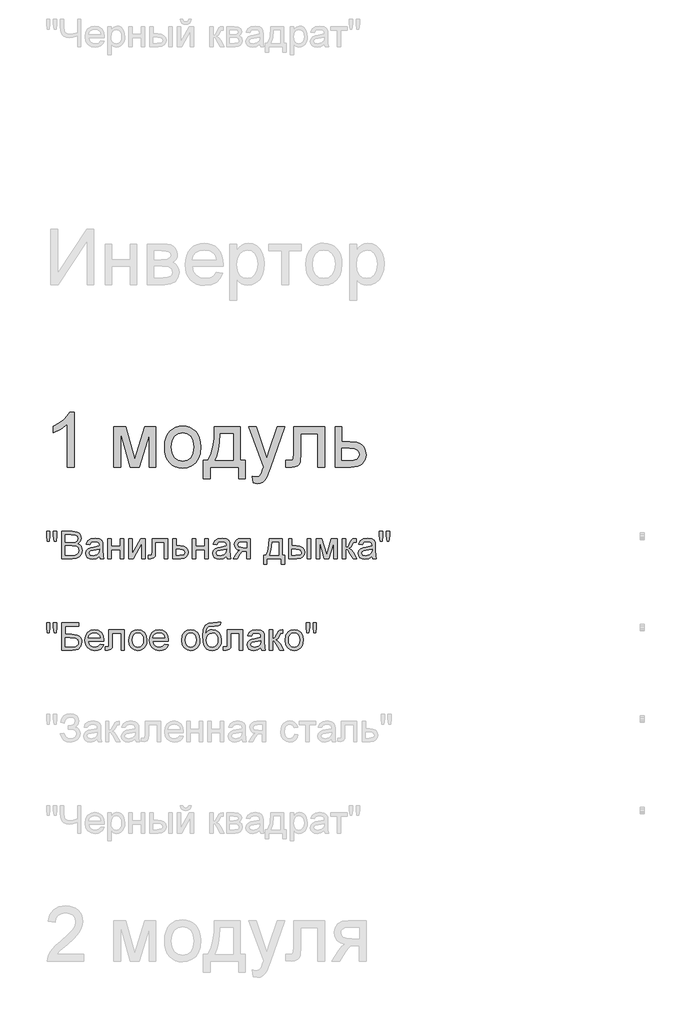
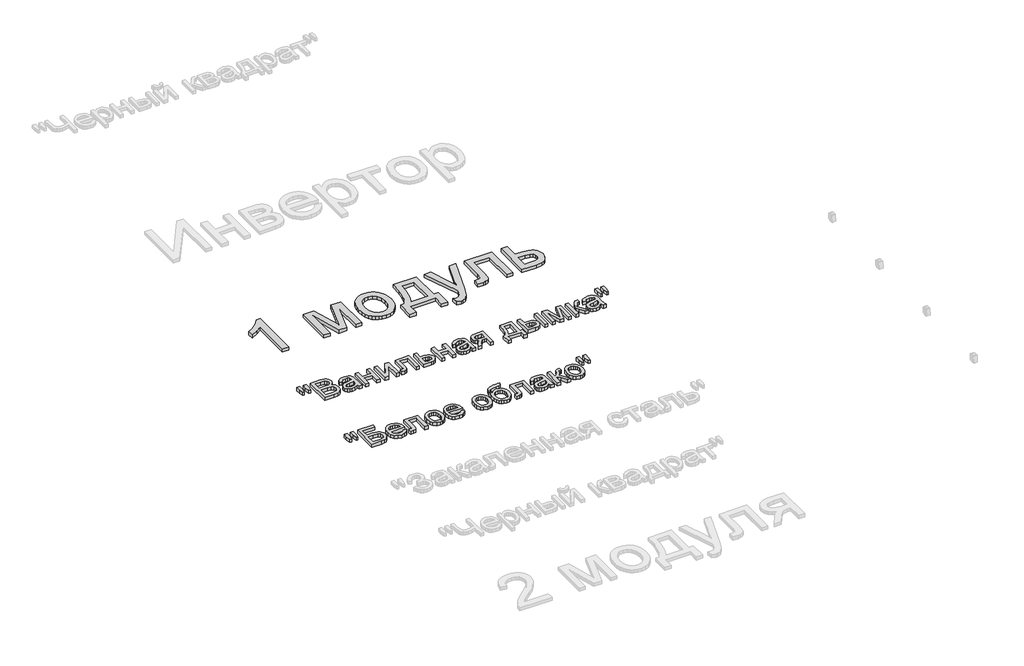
# One storey, part 26 of 168: 3 proxies.
"""IFC4 building model written with IfcOpenShell, lengths in millimetres."""

from ifc_helpers import new_model, si_unit, origin, origin_with_axes, place, context, project, spatial, polyline, outline, extrude, element, save

model = new_model("IFC4")

# Units and contexts
model_context = context("Model", 3, world=origin())
ifc_project = project(units=[si_unit("LENGTHUNIT", "METRE", prefix="MILLI")], contexts=[model_context])

# Site, building, storey
site = spatial("IfcSite", under=ifc_project)
building = spatial("IfcBuilding", under=site)
storey = spatial("IfcBuildingStorey", under=building, Name="Этаж 01", Elevation=0.0)

# Proxies
placement = place(None, origin())
element("IfcBuildingElementProxy", 1, Name="300 мм Arial 2", ObjectType="300 мм Arial 2", at=placement, inside=storey, context=model_context, shape_type="SweptSolid", body=[
    extrude(outline(polyline([(49226.2345192, -48566.8622977), (49188.5634029, -48566.8622977), (49188.5634029, -48332.006432), (49152.8788494, -48357.4270779), (49113.2211703, -48376.446577), (49113.2211703, -48340.8355999), (49142.8080797, -48324.7407626), (49168.4402577, -48305.5925048), (49188.6461763, -48285.2302363), (49201.9543075, -48265.4933673), (49226.2345192, -48265.4933673), (49226.2345192, -48566.8622977)])), origin_with_axes(), (0.0, 0.0, 1.0), 20.0),
    extrude(outline(polyline([(49442.843438, -48345.5444894), (49507.6642455, -48345.5444894), (49557.6226204, -48522.7164583), (49611.4805445, -48345.5444894), (49673.5790253, -48345.5444894), (49673.5790253, -48566.8622977), (49635.907909, -48566.8622977), (49635.907909, -48388.6602593), (49581.7556793, -48566.8622977), (49532.3123392, -48566.8622977), (49480.5145543, -48380.125397), (49480.5145543, -48566.8622977), (49442.843438, -48566.8622977), (49442.843438, -48345.5444894)])), origin_with_axes(), (0.0, 0.0, 1.0), 20.0),
    extrude(outline(polyline([(49720.6679207, -48456.2033936), (49722.7050673, -48427.5407876), (49728.8165069, -48402.8421102), (49739.0022396, -48382.1073612), (49753.2622655, -48365.3365408), (49767.6188603, -48354.6173791), (49783.4653773, -48346.9608351), (49800.8018163, -48342.3669087), (49819.6281774, -48340.8355999), (49840.4112109, -48342.7003018), (49859.203083, -48348.2944073), (49876.0037939, -48357.6179167), (49890.8133435, -48370.6708297), (49902.9005663, -48387.0116881), (49911.5342969, -48406.1990334), (49916.7145352, -48428.2328656), (49918.4412813, -48453.1131848), (49915.3878608, -48491.1705772), (49906.2275991, -48520.1412843), (49891.2272107, -48541.837125), (49870.6534101, -48558.069918), (49846.2168486, -48568.19587), (49819.6281774, -48571.5711873), (49798.5416413, -48569.7133832), (49779.5750252, -48564.139971), (49762.7283291, -48554.8509506), (49748.001553, -48541.8463221), (49736.0430888, -48525.3468146), (49727.5013288, -48505.5731573), (49722.3762727, -48482.5253503), (49720.6679207, -48456.2033936)]), holes=[polyline([(49758.339037, -48456.1298172), (49762.6984387, -48490.2232811), (49775.7766436, -48514.5126898), (49795.4583303, -48529.0532257), (49819.6281774, -48533.900071), (49843.6876599, -48529.0256345), (49863.3325584, -48514.4023252), (49876.4107634, -48489.7910197), (49880.770165, -48454.9525948), (49876.3831722, -48421.8524123), (49863.2221938, -48397.8940973), (49843.5497041, -48383.3535615), (49819.6281774, -48378.5067162), (49795.4583303, -48383.3351674), (49775.7766436, -48397.820521), (49762.6984387, -48422.0547474), (49758.339037, -48456.1298172)])]), origin_with_axes(), (0.0, 0.0, 1.0), 20.0),
    extrude(outline(polyline([(49993.7835139, -48345.5444894), (50135.0502001, -48345.5444894), (50135.0502001, -48529.1911814), (50163.3035373, -48529.1911814), (50163.3035373, -48628.0778617), (50125.632421, -48628.0778617), (50125.632421, -48566.8622977), (49970.2390662, -48566.8622977), (49970.2390662, -48628.0778617), (49932.5679499, -48628.0778617), (49932.5679499, -48529.1911814), (49956.1123976, -48529.1911814), (49973.2281074, -48498.2615027), (49985.2118634, -48457.3438278), (49992.0636656, -48406.4381567), (49993.7835139, -48345.5444894)]), holes=[polyline([(50026.7457407, -48383.2156057), (50023.6555319, -48429.3388109), (50017.9165728, -48469.0424752), (50009.5288633, -48502.3265987), (49998.4924035, -48529.1911814), (50097.3790838, -48529.1911814), (50097.3790838, -48383.2156057), (50026.7457407, -48383.2156057)])]), origin_with_axes(), (0.0, 0.0, 1.0), 20.0),
    extrude(outline(polyline([(50205.6835431, -48651.6223094), (50200.9746536, -48615.3491447), (50220.1045174, -48618.6600827), (50237.9835823, -48614.5030161), (50248.9464658, -48602.9147333), (50259.2471616, -48575.1764308), (50262.1902176, -48566.0529573), (50182.1390955, -48345.5444894), (50221.8703509, -48345.5444894), (50264.3239332, -48468.4170758), (50279.1127894, -48517.5661104), (50293.9016456, -48474.1560349), (50337.5324502, -48345.5444894), (50376.9694001, -48345.5444894), (50299.9349103, -48572.1597985), (50279.9221298, -48621.308833), (50269.6766162, -48636.9990001), (50258.0699393, -48647.8699131), (50244.5870641, -48654.2158775), (50228.712956, -48656.331199), (50205.6835431, -48651.6223094)])), origin_with_axes(), (0.0, 0.0, 1.0), 20.0),
    extrude(outline(polyline([(50427.0013514, -48345.5444894), (50596.5213748, -48345.5444894), (50596.5213748, -48566.6415685), (50558.8502585, -48566.6415685), (50558.8502585, -48383.2156057), (50464.6724678, -48383.2156057), (50464.6724678, -48488.7977384), (50462.134082, -48537.5053145), (50457.3792072, -48548.5325773), (50448.1913544, -48558.069918), (50434.2486268, -48564.6642028), (50415.2291276, -48566.8622977), (50384.6213456, -48564.9493114), (50384.6213456, -48529.1911814), (50401.470341, -48529.1911814), (50418.5032774, -48526.8735249), (50425.3090943, -48519.515885), (50427.0013514, -48486.6640228), (50427.0013514, -48345.5444894)])), origin_with_axes(), (0.0, 0.0, 1.0), 20.0),
    extrude(outline(polyline([(50653.0280493, -48345.5444894), (50690.6991656, -48345.5444894), (50690.6991656, -48425.5956116), (50734.109241, -48425.5956116), (50771.7435691, -48430.3136982), (50786.8911103, -48436.2113064), (50799.5922362, -48444.4679579), (50809.6354146, -48454.7985442), (50816.8091135, -48466.9179567), (50822.5480727, -48496.5232603), (50817.6644392, -48523.4798135), (50803.0135387, -48546.2241178), (50791.7816416, -48555.2533215), (50777.620484, -48561.7027528), (50740.5103877, -48566.8622977), (50653.0280493, -48566.8622977), (50653.0280493, -48345.5444894)]), holes=[polyline([(50690.6991656, -48529.1911814), (50725.8686843, -48529.1911814), (50753.1563313, -48527.2138157), (50771.3021107, -48521.2817185), (50781.483245, -48511.1557666), (50784.8769564, -48496.5968367), (50782.3661617, -48484.2911839), (50774.8337779, -48473.420271), (50758.6929553, -48465.8051137), (50730.3568447, -48463.2667279), (50690.6991656, -48463.2667279), (50690.6991656, -48529.1911814)])]), origin_with_axes(), (0.0, 0.0, 1.0), 20.0),
])
element("IfcBuildingElementProxy", 2, Name="150", ObjectType="150", at=placement, inside=storey, context=model_context, shape_type="SweptSolid", body=[
    extrude(outline(polyline([(49080.1485789, -48970.3300622), (49075.550054, -48941.2305964), (49075.550054, -48916.1778325), (49094.3856121, -48916.1778325), (49094.3856121, -48941.2305964), (49090.2653338, -48970.3300622), (49080.1485789, -48970.3300622)])), origin_with_axes(), (0.0, 0.0, 1.0), 20.0),
    extrude(outline(polyline([(49117.7093306, -48970.3300622), (49113.2211703, -48941.2305964), (49113.2211703, -48916.1778325), (49132.0567284, -48916.1778325), (49132.0567284, -48941.2305964), (49127.6421445, -48970.3300622), (49117.7093306, -48970.3300622)])), origin_with_axes(), (0.0, 0.0, 1.0), 20.0),
    extrude(outline(polyline([(49157.9556209, -49066.8622977), (49157.9556209, -48916.1778325), (49215.4555767, -48916.1778325), (49243.6169435, -48920.6108106), (49253.0807078, -48926.2348066), (49260.2452096, -48934.2408385), (49266.2600803, -48953.517855), (49261.2017028, -48971.1210085), (49245.9162059, -48984.4567308), (49256.5893823, -48990.030143), (49264.4758526, -48998.509823), (49269.3456905, -49009.3347507), (49270.9689698, -49021.9439061), (49266.5359918, -49042.19581), (49255.5547142, -49056.6167842), (49239.1655713, -49064.2687297), (49215.0141183, -49066.8622977), (49157.9556209, -49066.8622977)]), holes=[polyline([(49176.791179, -48977.3933965), (49211.1881456, -48977.3933965), (49231.2745025, -48975.7747157), (49243.3594261, -48968.8033519), (49247.4245221, -48956.5344874), (49243.6353376, -48944.2472287), (49232.7828187, -48936.9815593), (49208.5761834, -48935.0133907), (49176.791179, -48935.0133907), (49176.791179, -48977.3933965)]), polyline([(49176.791179, -49048.0267396), (49215.4187885, -49048.0267396), (49229.3983043, -49047.2909756), (49241.2257105, -49043.1890913), (49249.061597, -49034.819776), (49252.1334117, -49022.1278471), (49248.5281681, -49007.4861437), (49236.8479148, -48998.7489463), (49213.5793786, -48996.2289547), (49176.791179, -48996.2289547), (49176.791179, -49048.0267396)])]), origin_with_axes(), (0.0, 0.0, 1.0), 20.0),
    extrude(outline(polyline([(49365.1467606, -49052.7356291), (49346.8814195, -49065.5011344), (49326.7030921, -49069.2167425), (49310.9623412, -49066.9818594), (49299.3510657, -49060.27721), (49292.1911624, -49050.0960758), (49289.804528, -49037.4317381), (49293.4097715, -49022.5325173), (49302.8827329, -49011.7167867), (49316.0713024, -49005.5363691), (49332.3684748, -49002.7036778), (49365.036396, -48996.2289547), (49365.1467606, -48992.0350999), (49363.8499765, -48983.6289963), (49359.9596244, -48978.1291605), (49351.2592153, -48974.0456704), (49339.1375035, -48972.684507), (49320.0812162, -48976.3081446), (49310.9945309, -48989.1656204), (49292.1589727, -48986.8111756), (49300.3075589, -48968.4170758), (49316.7150959, -48957.6381334), (49341.5655247, -48953.8489488), (49364.3926025, -48957.196675), (49377.2868664, -48965.6027786), (49383.0626137, -48978.3866779), (49383.9823187, -48994.8677913), (49383.9823187, -49018.3018744), (49384.9388119, -49051.0249778), (49388.6912083, -49066.8622977), (49369.8556501, -49066.8622977), (49365.1467606, -49052.7356291)]), holes=[polyline([(49365.1467606, -49015.0645128), (49334.7597078, -49020.8402601), (49318.5545059, -49023.8936807), (49311.2152601, -49028.8600876), (49308.6400861, -49036.1073629), (49314.2502865, -49046.2976942), (49330.7130058, -49050.3811843), (49349.7692932, -49045.8746299), (49362.0565518, -49034.9669288), (49365.036396, -49020.3988017), (49365.1467606, -49015.0645128)])]), origin_with_axes(), (0.0, 0.0, 1.0), 20.0),
    extrude(outline(polyline([(49409.8812112, -48956.2033936), (49428.7167693, -48956.2033936), (49428.7167693, -48998.5833994), (49478.1601095, -48998.5833994), (49478.1601095, -48956.2033936), (49496.9956676, -48956.2033936), (49496.9956676, -49066.8622977), (49478.1601095, -49066.8622977), (49478.1601095, -49017.4189576), (49428.7167693, -49017.4189576), (49428.7167693, -49066.8622977), (49409.8812112, -49066.8622977), (49409.8812112, -48956.2033936)])), origin_with_axes(), (0.0, 0.0, 1.0), 20.0),
    extrude(outline(polyline([(49525.2490049, -48956.2033936), (49544.084563, -48956.2033936), (49544.084563, -49040.5955233), (49590.364118, -48956.2033936), (49614.7179061, -48956.2033936), (49614.7179061, -49066.8622977), (49595.8823479, -49066.8622977), (49595.8823479, -48982.9852028), (49549.8970985, -49066.8622977), (49525.2490049, -49066.8622977), (49525.2490049, -48956.2033936)])), origin_with_axes(), (0.0, 0.0, 1.0), 20.0),
    extrude(outline(polyline([(49652.3890224, -48956.2033936), (49737.1490341, -48956.2033936), (49737.1490341, -49066.7519331), (49718.3134759, -49066.7519331), (49718.3134759, -48975.0389517), (49671.2245806, -48975.0389517), (49671.2245806, -49027.830018), (49669.9553877, -49052.1838061), (49662.9840239, -49062.4661079), (49646.5029105, -49066.8622977), (49631.1990195, -49065.9058045), (49631.1990195, -49048.0267396), (49639.6235172, -49048.0267396), (49648.1399854, -49046.8679113), (49651.5428938, -49043.1890913), (49652.3890224, -49026.7631603), (49652.3890224, -48956.2033936)])), origin_with_axes(), (0.0, 0.0, 1.0), 20.0),
    extrude(outline(polyline([(49765.4023713, -48956.2033936), (49784.2379295, -48956.2033936), (49784.2379295, -48996.2289547), (49805.9429672, -48996.2289547), (49824.7601312, -48998.587998), (49838.6844648, -49005.6651278), (49847.2929034, -49016.8901272), (49850.162383, -49031.692779), (49847.7205663, -49045.1710556), (49840.395116, -49056.5432078), (49827.6985887, -49064.2825252), (49809.1435405, -49066.8622977), (49765.4023713, -49066.8622977), (49765.4023713, -48956.2033936)]), holes=[polyline([(49784.2379295, -49048.0267396), (49801.8226888, -49048.0267396), (49824.539402, -49044.0720081), (49829.6299692, -49039.0090322), (49831.3268249, -49031.7295672), (49826.3052356, -49020.1412843), (49818.2348244, -49016.3337057), (49804.066769, -49015.0645128), (49784.2379295, -49015.0645128), (49784.2379295, -49048.0267396)])]), origin_with_axes(), (0.0, 0.0, 1.0), 20.0),
    extrude(outline(polyline([(49873.7068307, -48956.2033936), (49892.5423889, -48956.2033936), (49892.5423889, -48998.5833994), (49941.985729, -48998.5833994), (49941.985729, -48956.2033936), (49960.8212872, -48956.2033936), (49960.8212872, -49066.8622977), (49941.985729, -49066.8622977), (49941.985729, -49017.4189576), (49892.5423889, -49017.4189576), (49892.5423889, -49066.8622977), (49873.7068307, -49066.8622977), (49873.7068307, -48956.2033936)])), origin_with_axes(), (0.0, 0.0, 1.0), 20.0),
    extrude(outline(polyline([(50059.7079675, -49052.7356291), (50041.4426264, -49065.5011344), (50021.264299, -49069.2167425), (50005.5235481, -49066.9818594), (49993.9122726, -49060.27721), (49986.7523693, -49050.0960758), (49984.3657349, -49037.4317381), (49987.9709784, -49022.5325173), (49997.4439398, -49011.7167867), (50010.6325093, -49005.5363691), (50026.9296817, -49002.7036778), (50059.5976029, -48996.2289547), (50059.7079675, -48992.0350999), (50058.4111834, -48983.6289963), (50054.5208313, -48978.1291605), (50045.8204221, -48974.0456704), (50033.6987104, -48972.684507), (50014.6424231, -48976.3081446), (50005.5557378, -48989.1656204), (49986.7201796, -48986.8111756), (49994.8687658, -48968.4170758), (50011.2763028, -48957.6381334), (50036.1267316, -48953.8489488), (50058.9538094, -48957.196675), (50071.8480733, -48965.6027786), (50077.6238206, -48978.3866779), (50078.5435256, -48994.8677913), (50078.5435256, -49018.3018744), (50079.5000188, -49051.0249778), (50083.2524152, -49066.8622977), (50064.416857, -49066.8622977), (50059.7079675, -49052.7356291)]), holes=[polyline([(50059.7079675, -49015.0645128), (50029.3209147, -49020.8402601), (50013.1157128, -49023.8936807), (50005.776467, -49028.8600876), (50003.201293, -49036.1073629), (50008.8114934, -49046.2976942), (50025.2742127, -49050.3811843), (50044.3305001, -49045.8746299), (50056.6177587, -49034.9669288), (50059.5976029, -49020.3988017), (50059.7079675, -49015.0645128)])]), origin_with_axes(), (0.0, 0.0, 1.0), 20.0),
    extrude(outline(polyline([(50189.2024298, -48956.2033936), (50189.2024298, -49066.8622977), (50170.3668716, -49066.8622977), (50170.3668716, -49024.4822919), (50160.1029639, -49024.4822919), (50146.1234481, -49026.8735249), (50132.9900609, -49042.949968), (50117.9804755, -49066.8622977), (50096.2018614, -49066.8622977), (50115.1109959, -49036.6223977), (50123.4619172, -49025.7698789), (50131.1506509, -49020.9506247), (50118.2747811, -49017.0050903), (50109.224884, -49009.5094947), (50103.872201, -48999.5398926), (50102.0879733, -48988.172339), (50104.5251915, -48975.278075), (50111.8368462, -48965.0693497), (50123.7654199, -48958.4198826), (50140.0533952, -48956.2033936), (50189.2024298, -48956.2033936)]), holes=[polyline([(50170.3668716, -48975.0389517), (50145.5348369, -48975.0389517), (50132.7095509, -48976.1288021), (50125.4300859, -48979.3983534), (50120.9235315, -48989.6070787), (50122.583599, -48996.7853762), (50127.5638015, -49001.7655787), (50151.0898551, -49005.6467337), (50170.3668716, -49005.6467337), (50170.3668716, -48975.0389517)])]), origin_with_axes(), (0.0, 0.0, 1.0), 20.0),
    extrude(outline(polyline([(50292.7979996, -48956.2033936), (50363.4313427, -48956.2033936), (50363.4313427, -49048.0267396), (50377.5580113, -49048.0267396), (50377.5580113, -49097.4700797), (50358.7224531, -49097.4700797), (50358.7224531, -49066.8622977), (50281.0257758, -49066.8622977), (50281.0257758, -49097.4700797), (50262.1902176, -49097.4700797), (50262.1902176, -49048.0267396), (50273.9624415, -49048.0267396), (50282.5202964, -49032.5619002), (50288.5121744, -49012.1030628), (50292.7979996, -48956.2033936)]), holes=[polyline([(50309.279113, -48975.0389517), (50304.864529, -49017.9523865), (50295.1524444, -49048.0267396), (50344.5957845, -49048.0267396), (50344.5957845, -48975.0389517), (50309.279113, -48975.0389517)])]), origin_with_axes(), (0.0, 0.0, 1.0), 20.0),
    extrude(outline(polyline([(50502.3435841, -48956.2033936), (50521.1791422, -48956.2033936), (50521.1791422, -49066.8622977), (50502.3435841, -49066.8622977), (50502.3435841, -48956.2033936)])), origin_with_axes(), (0.0, 0.0, 1.0), 20.0),
    extrude(outline(polyline([(50398.7480142, -48956.2033936), (50417.5835724, -48956.2033936), (50417.5835724, -48996.2289547), (50440.8705027, -48996.2289547), (50460.9982463, -48998.587998), (50475.9112627, -49005.6651278), (50485.1405023, -49016.8901272), (50488.2169154, -49031.692779), (50485.637143, -49045.1710556), (50477.8978255, -49056.5432078), (50464.4931253, -49064.2825252), (50444.9172046, -49066.8622977), (50398.7480142, -49066.8622977), (50398.7480142, -48956.2033936)]), holes=[polyline([(50417.5835724, -49048.0267396), (50436.9341653, -49048.0267396), (50461.9133528, -49044.0720081), (50467.5143562, -49039.0090322), (50469.3813573, -49031.7295672), (50463.8447333, -49020.1412843), (50454.9649816, -49016.3337057), (50439.3989747, -49015.0645128), (50417.5835724, -49015.0645128), (50417.5835724, -49048.0267396)])]), origin_with_axes(), (0.0, 0.0, 1.0), 20.0),
    extrude(outline(polyline([(50549.4324794, -48956.2033936), (50581.8428832, -48956.2033936), (50606.8220707, -49044.789378), (50633.7510327, -48956.2033936), (50664.8002731, -48956.2033936), (50664.8002731, -49066.8622977), (50645.964715, -49066.8622977), (50645.964715, -48977.7612785), (50618.8886001, -49066.8622977), (50594.1669301, -49066.8622977), (50568.2680376, -48973.4938474), (50568.2680376, -49066.8622977), (50549.4324794, -49066.8622977), (50549.4324794, -48956.2033936)])), origin_with_axes(), (0.0, 0.0, 1.0), 20.0),
    extrude(outline(polyline([(50693.0536104, -48956.2033936), (50711.8891685, -48956.2033936), (50711.8891685, -49003.292289), (50724.5075209, -48999.9077746), (50734.845005, -48980.1892997), (50743.4350496, -48963.1747574), (50751.0134187, -48957.6381334), (50764.7905994, -48956.2033936), (50768.395843, -48956.2033936), (50768.395843, -48975.1493163), (50763.3190714, -48975.0389517), (50754.1220216, -48977.0255145), (50747.6472984, -48989.4231377), (50740.0505352, -49002.8324365), (50729.4003515, -49009.3991301), (50741.2829399, -49016.7291788), (50752.9447992, -49032.1710256), (50773.1047325, -49066.8622977), (50751.6940004, -49066.8622977), (50731.9387372, -49032.9067896), (50722.0059234, -49018.5409977), (50711.8891685, -49015.0645128), (50711.8891685, -49066.8622977), (50693.0536104, -49066.8622977), (50693.0536104, -48956.2033936)])), origin_with_axes(), (0.0, 0.0, 1.0), 20.0),
    extrude(outline(polyline([(50855.5102994, -49052.7356291), (50837.2449584, -49065.5011344), (50817.0666309, -49069.2167425), (50801.3258801, -49066.9818594), (50789.7146046, -49060.27721), (50782.5547013, -49050.0960758), (50780.1680668, -49037.4317381), (50783.7733104, -49022.5325173), (50793.2462717, -49011.7167867), (50806.4348413, -49005.5363691), (50822.7320137, -49002.7036778), (50855.3999348, -48996.2289547), (50855.5102994, -48992.0350999), (50854.2135154, -48983.6289963), (50850.3231633, -48978.1291605), (50841.6227541, -48974.0456704), (50829.5010424, -48972.684507), (50810.444755, -48976.3081446), (50801.3580697, -48989.1656204), (50782.5225116, -48986.8111756), (50790.6710978, -48968.4170758), (50807.0786348, -48957.6381334), (50831.9290635, -48953.8489488), (50854.7561413, -48957.196675), (50867.6504053, -48965.6027786), (50873.4261526, -48978.3866779), (50874.3458576, -48994.8677913), (50874.3458576, -49018.3018744), (50875.3023508, -49051.0249778), (50879.0547471, -49066.8622977), (50860.219189, -49066.8622977), (50855.5102994, -49052.7356291)]), holes=[polyline([(50855.5102994, -49015.0645128), (50825.1232466, -49020.8402601), (50808.9180447, -49023.8936807), (50801.5787989, -49028.8600876), (50799.003625, -49036.1073629), (50804.6138254, -49046.2976942), (50821.0765447, -49050.3811843), (50840.132832, -49045.8746299), (50852.4200907, -49034.9669288), (50855.3999348, -49020.3988017), (50855.5102994, -49015.0645128)])]), origin_with_axes(), (0.0, 0.0, 1.0), 20.0),
    extrude(outline(polyline([(50900.1343854, -48970.3300622), (50895.5358605, -48941.2305964), (50895.5358605, -48916.1778325), (50914.3714187, -48916.1778325), (50914.3714187, -48941.2305964), (50910.2511403, -48970.3300622), (50900.1343854, -48970.3300622)])), origin_with_axes(), (0.0, 0.0, 1.0), 20.0),
    extrude(outline(polyline([(50937.6951372, -48970.3300622), (50933.2069768, -48941.2305964), (50933.2069768, -48916.1778325), (50952.042535, -48916.1778325), (50952.042535, -48941.2305964), (50947.627951, -48970.3300622), (50937.6951372, -48970.3300622)])), origin_with_axes(), (0.0, 0.0, 1.0), 20.0),
])
element("IfcBuildingElementProxy", 3, Name="150", ObjectType="150", at=placement, inside=storey, context=model_context, shape_type="SweptSolid", body=[
    extrude(outline(polyline([(49080.1485789, -49470.3300622), (49075.550054, -49441.2305964), (49075.550054, -49416.1778325), (49094.3856121, -49416.1778325), (49094.3856121, -49441.2305964), (49090.2653338, -49470.3300622), (49080.1485789, -49470.3300622)])), origin_with_axes(), (0.0, 0.0, 1.0), 20.0),
    extrude(outline(polyline([(49117.7093306, -49470.3300622), (49113.2211703, -49441.2305964), (49113.2211703, -49416.1778325), (49132.0567284, -49416.1778325), (49132.0567284, -49441.2305964), (49127.6421445, -49470.3300622), (49117.7093306, -49470.3300622)])), origin_with_axes(), (0.0, 0.0, 1.0), 20.0),
    extrude(outline(polyline([(49157.9556209, -49416.1778325), (49252.1334117, -49416.1778325), (49252.1334117, -49435.0133907), (49176.791179, -49435.0133907), (49176.791179, -49479.7478413), (49212.0710624, -49479.7478413), (49243.157091, -49483.573814), (49253.5589544, -49489.101241), (49261.6615553, -49498.0315764), (49266.8762826, -49509.5278888), (49268.614525, -49522.7532465), (49263.6665122, -49544.2191609), (49248.8960501, -49560.5347274), (49235.6247071, -49565.2804052), (49215.4555767, -49566.8622977), (49157.9556209, -49566.8622977), (49157.9556209, -49416.1778325)]), holes=[polyline([(49176.791179, -49548.0267396), (49217.1478339, -49548.0267396), (49231.4124583, -49546.4724382), (49241.6119866, -49541.8095339), (49247.7372218, -49534.0380267), (49249.7789669, -49523.1579167), (49245.1068655, -49508.4058487), (49232.102237, -49500.533174), (49203.7201411, -49498.5833994), (49176.791179, -49498.5833994), (49176.791179, -49548.0267396)])]), origin_with_axes(), (0.0, 0.0, 1.0), 20.0),
    extrude(outline(polyline([(49369.6349209, -49533.900071), (49388.1025971, -49536.2545157), (49381.4485315, -49550.1696522), (49370.8305374, -49560.5715156), (49356.4877381, -49567.0554358), (49338.6592569, -49569.2167425), (49316.5587461, -49565.4873388), (49299.5534008, -49554.2991276), (49288.710079, -49536.3786759), (49285.0956384, -49512.4525506), (49288.7468672, -49487.7216835), (49299.7005536, -49469.2264162), (49316.4759726, -49457.6933157), (49337.5923991, -49453.8489488), (49358.0512366, -49457.6841186), (49374.3989927, -49469.189628), (49385.1181544, -49487.6481071), (49388.6912083, -49512.342186), (49388.5808437, -49517.4189576), (49303.9311966, -49517.4189576), (49307.1915508, -49531.518035), (49314.7653213, -49541.8831103), (49325.6960151, -49548.2566658), (49339.0271389, -49550.3811843), (49357.4948151, -49546.444847), (49369.6349209, -49533.900071)]), holes=[polyline([(49303.9311966, -49498.5833994), (49369.8556501, -49498.5833994), (49367.3080673, -49488.6321915), (49362.3140692, -49481.5136749), (49351.3327917, -49474.8917989), (49337.5188227, -49472.684507), (49324.8222954, -49474.445742), (49314.3238629, -49479.7294472), (49307.0260039, -49487.9654053), (49303.9311966, -49498.5833994)])]), origin_with_axes(), (0.0, 0.0, 1.0), 20.0),
    extrude(outline(polyline([(49416.9445455, -49456.2033936), (49501.7045572, -49456.2033936), (49501.7045572, -49566.7519331), (49482.868999, -49566.7519331), (49482.868999, -49475.0389517), (49435.7801036, -49475.0389517), (49435.7801036, -49527.830018), (49434.5109108, -49552.1838061), (49427.539547, -49562.4661079), (49411.0584336, -49566.8622977), (49395.7545426, -49565.9058045), (49395.7545426, -49548.0267396), (49404.1790403, -49548.0267396), (49412.6955084, -49546.8679113), (49416.0984169, -49543.1890913), (49416.9445455, -49526.7631603), (49416.9445455, -49456.2033936)])), origin_with_axes(), (0.0, 0.0, 1.0), 20.0),
    extrude(outline(polyline([(49525.2490049, -49511.5328457), (49529.323298, -49484.852204), (49541.5461773, -49466.0994193), (49556.6477332, -49456.9115664), (49574.7291332, -49453.8489488), (49594.516586, -49457.5783525), (49610.3217163, -49468.7665637), (49620.6821929, -49486.5306656), (49624.1356852, -49509.9877413), (49622.6089749, -49529.0164375), (49618.0288441, -49543.501791), (49610.5286499, -49554.3497114), (49600.2417496, -49562.4661079), (49588.0234688, -49567.5290839), (49574.7291332, -49569.2167425), (49554.7025571, -49565.5011344), (49538.915821, -49554.3543099), (49528.6657089, -49536.2177275), (49525.2490049, -49511.5328457)]), holes=[polyline([(49544.084563, -49511.4960575), (49546.2642638, -49528.5427894), (49552.8033663, -49540.6874938), (49562.6442097, -49547.9577617), (49574.7291332, -49550.3811843), (49586.7588745, -49547.9439661), (49596.5813237, -49540.6323115), (49603.1204262, -49528.3266587), (49605.300127, -49510.9074463), (49603.1066306, -49494.357355), (49596.5261414, -49482.3781975), (49586.6898966, -49475.1079296), (49574.7291332, -49472.684507), (49562.6442097, -49475.0987326), (49552.8033663, -49482.3414093), (49546.2642638, -49494.4585226), (49544.084563, -49511.4960575)])]), origin_with_axes(), (0.0, 0.0, 1.0), 20.0),
    extrude(outline(polyline([(49722.8016363, -49533.900071), (49741.2693124, -49536.2545157), (49734.6152469, -49550.1696522), (49723.9972528, -49560.5715156), (49709.6544535, -49567.0554358), (49691.8259723, -49569.2167425), (49669.7254614, -49565.4873388), (49652.7201162, -49554.2991276), (49641.8767944, -49536.3786759), (49638.2623538, -49512.4525506), (49641.9135826, -49487.7216835), (49652.867269, -49469.2264162), (49669.642688, -49457.6933157), (49690.7591145, -49453.8489488), (49711.217952, -49457.6841186), (49727.5657081, -49469.189628), (49738.2848698, -49487.6481071), (49741.8579236, -49512.342186), (49741.747559, -49517.4189576), (49657.0979119, -49517.4189576), (49660.3582661, -49531.518035), (49667.9320367, -49541.8831103), (49678.8627305, -49548.2566658), (49692.1938543, -49550.3811843), (49710.6615304, -49546.444847), (49722.8016363, -49533.900071)]), holes=[polyline([(49657.0979119, -49498.5833994), (49723.0223655, -49498.5833994), (49720.4747827, -49488.6321915), (49715.4807846, -49481.5136749), (49704.499507, -49474.8917989), (49690.6855381, -49472.684507), (49677.9890107, -49474.445742), (49667.4905783, -49479.7294472), (49660.1927192, -49487.9654053), (49657.0979119, -49498.5833994)])]), origin_with_axes(), (0.0, 0.0, 1.0), 20.0),
    extrude(outline(polyline([(49814.8457115, -49511.5328457), (49818.9200046, -49484.852204), (49831.1428839, -49466.0994193), (49846.2444398, -49456.9115664), (49864.3258398, -49453.8489488), (49884.1132926, -49457.5783525), (49899.9184229, -49468.7665637), (49910.2788995, -49486.5306656), (49913.7323918, -49509.9877413), (49912.2056815, -49529.0164375), (49907.6255507, -49543.501791), (49900.1253565, -49554.3497114), (49889.8384562, -49562.4661079), (49877.6201754, -49567.5290839), (49864.3258398, -49569.2167425), (49844.2992637, -49565.5011344), (49828.5125276, -49554.3543099), (49818.2624155, -49536.2177275), (49814.8457115, -49511.5328457)]), holes=[polyline([(49833.6812696, -49511.4960575), (49835.8609704, -49528.5427894), (49842.4000729, -49540.6874938), (49852.2409163, -49547.9577617), (49864.3258398, -49550.3811843), (49876.3555811, -49547.9439661), (49886.1780303, -49540.6323115), (49892.7171328, -49528.3266587), (49894.8968336, -49510.9074463), (49892.7033372, -49494.357355), (49886.122848, -49482.3781975), (49876.2866032, -49475.1079296), (49864.3258398, -49472.684507), (49852.2409163, -49475.0987326), (49842.4000729, -49482.3414093), (49835.8609704, -49494.4585226), (49833.6812696, -49511.4960575)])]), origin_with_axes(), (0.0, 0.0, 1.0), 20.0),
    extrude(outline(polyline([(50012.6190721, -49413.8233877), (50029.1001855, -49413.8233877), (50024.2441431, -49428.5202734), (50014.6424231, -49433.8361683), (49991.576222, -49435.0133907), (49960.5085875, -49439.3543982), (49953.3808738, -49445.0013868), (49948.5892108, -49453.2603376), (49944.560903, -49477.8716431), (49960.8764695, -49459.8454253), (49970.7954878, -49455.3480679), (49981.9009255, -49453.8489488), (50001.4998388, -49457.661126), (50017.401538, -49469.0976575), (50027.9413572, -49487.0365033), (50031.4546302, -49510.3556233), (50029.7117893, -49528.3358558), (50024.4832664, -49542.766027), (50007.9469707, -49562.3189551), (49996.6529935, -49567.4922957), (49981.9009255, -49569.2167425), (49964.9001788, -49566.995655), (49952.1576662, -49560.3323923), (49942.7812738, -49550.2064404), (49935.8788879, -49537.597285), (49931.6298508, -49518.6099755), (49930.2135052, -49489.3495614), (49933.786559, -49453.2097538), (49944.5057207, -49431.1690238), (49962.6377045, -49419.9256303), (49988.449225, -49416.1778325), (50009.4184987, -49415.7547682), (50012.6190721, -49413.8233877)]), holes=[polyline([(50012.6190721, -49509.7670121), (50010.577327, -49494.9459662), (50004.4520918, -49483.0771733), (49994.6112484, -49475.2826736), (49981.4226789, -49472.684507), (49967.6730893, -49475.4298264), (49957.473561, -49483.6657845), (49951.1551877, -49496.4910706), (49949.0490633, -49513.0043736), (49951.3759169, -49529.011839), (49958.3564778, -49540.7610702), (49968.7491442, -49547.9761558), (49981.3123143, -49550.3811843), (49993.9398638, -49547.5990768), (50003.937057, -49539.252754), (50010.4485683, -49526.3171033), (50012.6190721, -49509.7670121)])]), origin_with_axes(), (0.0, 0.0, 1.0), 20.0),
    extrude(outline(polyline([(50064.416857, -49456.2033936), (50149.1768687, -49456.2033936), (50149.1768687, -49566.7519331), (50130.3413105, -49566.7519331), (50130.3413105, -49475.0389517), (50083.2524152, -49475.0389517), (50083.2524152, -49527.830018), (50081.9832223, -49552.1838061), (50075.0118585, -49562.4661079), (50058.5307451, -49566.8622977), (50043.2268541, -49565.9058045), (50043.2268541, -49548.0267396), (50051.6513518, -49548.0267396), (50060.16782, -49546.8679113), (50063.5707284, -49543.1890913), (50064.416857, -49526.7631603), (50064.416857, -49456.2033936)])), origin_with_axes(), (0.0, 0.0, 1.0), 20.0),
    extrude(outline(polyline([(50248.063549, -49552.7356291), (50229.7982079, -49565.5011344), (50209.6198805, -49569.2167425), (50193.8791296, -49566.9818594), (50182.2678542, -49560.27721), (50175.1079508, -49550.0960758), (50172.7213164, -49537.4317381), (50176.3265599, -49522.5325173), (50185.7995213, -49511.7167867), (50198.9880908, -49505.5363691), (50215.2852632, -49502.7036778), (50247.9531844, -49496.2289547), (50248.063549, -49492.0350999), (50246.766765, -49483.6289963), (50242.8764129, -49478.1291605), (50234.1760037, -49474.0456704), (50222.0542919, -49472.684507), (50202.9980046, -49476.3081446), (50193.9113193, -49489.1656204), (50175.0757612, -49486.8111756), (50183.2243473, -49468.4170758), (50199.6318843, -49457.6381334), (50224.4823131, -49453.8489488), (50247.3093909, -49457.196675), (50260.2036548, -49465.6027786), (50265.9794022, -49478.3866779), (50266.8991071, -49494.8677913), (50266.8991071, -49518.3018744), (50267.8556003, -49551.0249778), (50271.6079967, -49566.8622977), (50252.7724385, -49566.8622977), (50248.063549, -49552.7356291)]), holes=[polyline([(50248.063549, -49515.0645128), (50217.6764962, -49520.8402601), (50201.4712943, -49523.8936807), (50194.1320485, -49528.8600876), (50191.5568745, -49536.1073629), (50197.167075, -49546.2976942), (50213.6297942, -49550.3811843), (50232.6860816, -49545.8746299), (50244.9733402, -49534.9669288), (50247.9531844, -49520.3988017), (50248.063549, -49515.0645128)])]), origin_with_axes(), (0.0, 0.0, 1.0), 20.0),
    extrude(outline(polyline([(50292.7979996, -49456.2033936), (50311.6335578, -49456.2033936), (50311.6335578, -49503.292289), (50324.2519102, -49499.9077746), (50334.5893943, -49480.1892997), (50343.1794388, -49463.1747574), (50350.7578079, -49457.6381334), (50364.5349887, -49456.2033936), (50368.1402322, -49456.2033936), (50368.1402322, -49475.1493163), (50363.0634607, -49475.0389517), (50353.8664108, -49477.0255145), (50347.3916877, -49489.4231377), (50339.7949245, -49502.8324365), (50329.1447407, -49509.3991301), (50341.0273292, -49516.7291788), (50352.6891884, -49532.1710256), (50372.8491218, -49566.8622977), (50351.4383896, -49566.8622977), (50331.6831265, -49532.9067896), (50321.7503126, -49518.5409977), (50311.6335578, -49515.0645128), (50311.6335578, -49566.8622977), (50292.7979996, -49566.8622977), (50292.7979996, -49456.2033936)])), origin_with_axes(), (0.0, 0.0, 1.0), 20.0),
    extrude(outline(polyline([(50379.9124561, -49511.5328457), (50383.9867492, -49484.852204), (50396.2096285, -49466.0994193), (50411.3111844, -49456.9115664), (50429.3925844, -49453.8489488), (50449.1800372, -49457.5783525), (50464.9851674, -49468.7665637), (50475.3456441, -49486.5306656), (50478.7991364, -49509.9877413), (50477.2724261, -49529.0164375), (50472.6922952, -49543.501791), (50465.1921011, -49554.3497114), (50454.9052008, -49562.4661079), (50442.68692, -49567.5290839), (50429.3925844, -49569.2167425), (50409.3660083, -49565.5011344), (50393.5792722, -49554.3543099), (50383.3291601, -49536.2177275), (50379.9124561, -49511.5328457)]), holes=[polyline([(50398.7480142, -49511.4960575), (50400.927715, -49528.5427894), (50407.4668175, -49540.6874938), (50417.3076609, -49547.9577617), (50429.3925844, -49550.3811843), (50441.4223257, -49547.9439661), (50451.2447749, -49540.6323115), (50457.7838774, -49528.3266587), (50459.9635782, -49510.9074463), (50457.7700818, -49494.357355), (50451.1895926, -49482.3781975), (50441.3533478, -49475.1079296), (50429.3925844, -49472.684507), (50417.3076609, -49475.0987326), (50407.4668175, -49482.3414093), (50400.927715, -49494.4585226), (50398.7480142, -49511.4960575)])]), origin_with_axes(), (0.0, 0.0, 1.0), 20.0),
    extrude(outline(polyline([(50499.8787747, -49470.3300622), (50495.2802498, -49441.2305964), (50495.2802498, -49416.1778325), (50514.1158079, -49416.1778325), (50514.1158079, -49441.2305964), (50509.9955296, -49470.3300622), (50499.8787747, -49470.3300622)])), origin_with_axes(), (0.0, 0.0, 1.0), 20.0),
    extrude(outline(polyline([(50537.4395264, -49470.3300622), (50532.9513661, -49441.2305964), (50532.9513661, -49416.1778325), (50551.7869242, -49416.1778325), (50551.7869242, -49441.2305964), (50547.3723403, -49470.3300622), (50537.4395264, -49470.3300622)])), origin_with_axes(), (0.0, 0.0, 1.0), 20.0),
])

save(model, "model.ifc")
